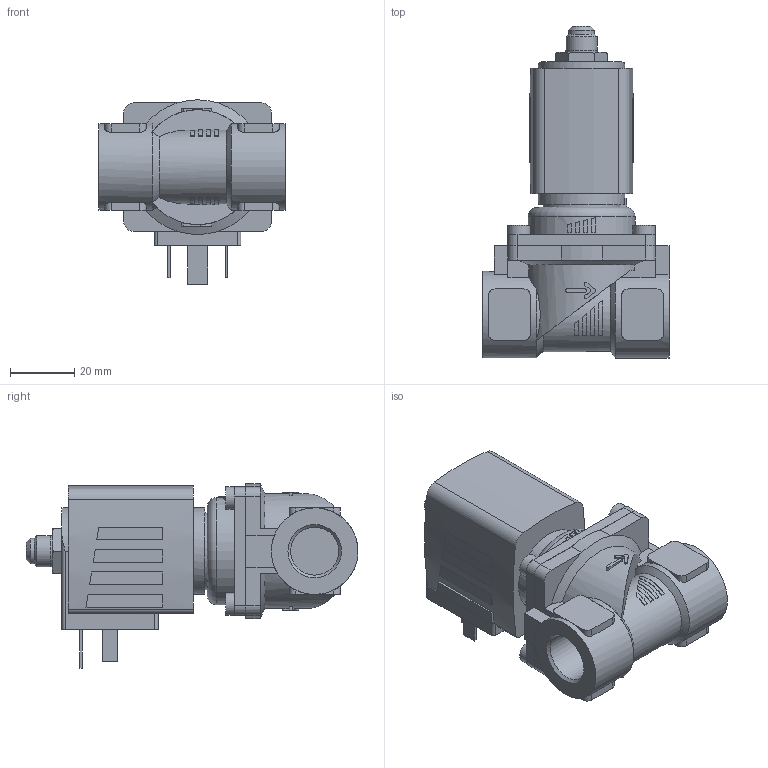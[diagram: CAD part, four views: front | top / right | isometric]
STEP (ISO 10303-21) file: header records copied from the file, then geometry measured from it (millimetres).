
FILE_DESCRIPTION(/* description */ ('STEP AP214'),/* implementation_level */ '2;1');
FILE_NAME(/* name */ '6281-350611-2_2-Way_Solenoid_Valve__Servo-assisted__General_Purpose',/* time_stamp */ '2024-05-19T07:26:34+02:00',/* author */ ('License CC BY-ND 4.0'),/* organization */ ('CADENAS'),/* preprocessor_version */ 'ST-DEVELOPER v19.3',/* originating_system */ 'PARTsolutions',/* authorisation */ ' ');
FILE_SCHEMA (('AUTOMOTIVE_DESIGN {1 0 10303 214 3 1 1}'));
Length unit declared in the file: millimetre
Products named in the file (4): 6281-350611-2/2-Way Solenoid Valve, Servo-assisted, General Purpose; 5281ev130MS2/2-Wege-Magnetventil mit Servomembran-Deckel  MX62 ; 6213-13G3/8MS-Gehaeuse-; AC10ex-5NA38-Gewinde-Coil
Assembly tree (3 placements, depth 2):
  6281-350611-2/2-Way Solenoid Valve, Servo-assisted, General Purpose
    5281ev130MS2/2-Wege-Magnetventil mit Servomembran-Deckel  MX62 
    6213-13G3/8MS-Gehaeuse-
    AC10ex-5NA38-Gewinde-Coil
Bounding box: 58 x 103.5 x 57.5 mm (x, y, z)
Volume: 114402 mm3; surface area: 26853 mm2
Topology: 3 solids, 3 shells, 321 faces, 798 edges, 521 vertices
Faces by surface type: plane 220, cylinder 83, cone 17, torus 1
Full cylindrical faces by diameter (mm): 2.013 x1, 2.7 x1, 7 x4, 8 x1, 9.73 x1, 9.74 x1, 14.95 x2, 27 x2, 33.4 x1
Entity records: 10618 total; most frequent: CARTESIAN_POINT 1848, DIRECTION 1600, ORIENTED_EDGE 1532, EDGE_CURVE 766, AXIS2_PLACEMENT_3D 575, VERTEX_POINT 510, LINE 450, VECTOR 450
